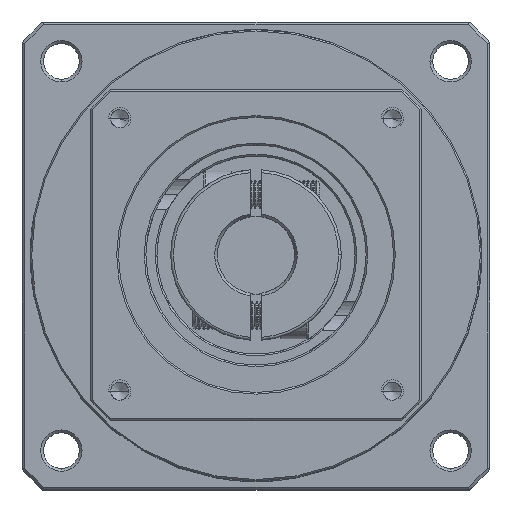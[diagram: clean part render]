
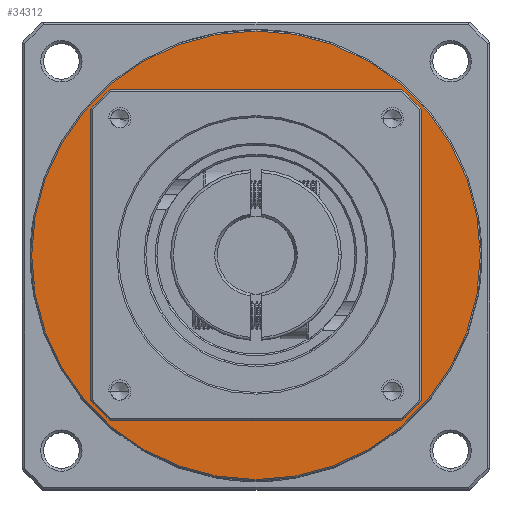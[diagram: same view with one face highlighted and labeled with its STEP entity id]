
A CAD part, top view. The second image highlights one B-rep face of the part: STEP entity #34312.
In plain terms, the highlighted planar face has unit normal (0, 0, 1).
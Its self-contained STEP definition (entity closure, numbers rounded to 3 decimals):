
#706 = EDGE_CURVE ( 'NONE', #90603, #78746, #49749, .T. ) ;
#1589 = FACE_BOUND ( 'NONE', #71587, .T. ) ;
#1782 = EDGE_CURVE ( 'NONE', #35960, #50539, #41264, .T. ) ;
#4365 = ORIENTED_EDGE ( 'NONE', *, *, #706, .T. ) ;
#6225 = CARTESIAN_POINT ( 'NONE',  ( -21.377, 18.452, -15.806 ) ) ;
#6499 = DIRECTION ( 'NONE',  ( -1., 0., 0. ) ) ;
#6608 = DIRECTION ( 'NONE',  ( 0., 0., -1. ) ) ;
#6634 = CARTESIAN_POINT ( 'NONE',  ( -62.127, 18.452, -15.806 ) ) ;
#6639 = CARTESIAN_POINT ( 'NONE',  ( -62.127, 18.452, -15.806 ) ) ;
#9171 = ORIENTED_EDGE ( 'NONE', *, *, #14248, .F. ) ;
#11929 = CIRCLE ( 'NONE', #32066, 40.75 ) ;
#14248 = EDGE_CURVE ( 'NONE', #50539, #35960, #11929, .T. ) ;
#15518 = DIRECTION ( 'NONE',  ( 1., 0., 0. ) ) ;
#18765 = DIRECTION ( 'NONE',  ( 0., 0., -1. ) ) ;
#19533 = AXIS2_PLACEMENT_3D ( 'NONE', #71592, #18765, #80556 ) ;
#20579 = EDGE_LOOP ( 'NONE', ( #99719, #9171 ) ) ;
#22600 = AXIS2_PLACEMENT_3D ( 'NONE', #6634, #68273, #15518 ) ;
#27116 = DIRECTION ( 'NONE',  ( 0., 0., -1. ) ) ;
#32066 = AXIS2_PLACEMENT_3D ( 'NONE', #80065, #27116, #88884 ) ;
#34312 = ADVANCED_FACE ( 'NONE', ( #69236, #1589 ), #67910, .T. ) ;
#35960 = VERTEX_POINT ( 'NONE', #105515 ) ;
#41264 = CIRCLE ( 'NONE', #96773, 40.75 ) ;
#43983 = ORIENTED_EDGE ( 'NONE', *, *, #62585, .T. ) ;
#49749 = CIRCLE ( 'NONE', #88489, 30. ) ;
#50539 = VERTEX_POINT ( 'NONE', #6225 ) ;
#62585 = EDGE_CURVE ( 'NONE', #78746, #90603, #66286, .T. ) ;
#66286 = CIRCLE ( 'NONE', #19533, 30. ) ;
#67910 = PLANE ( 'NONE',  #22600 ) ;
#68273 = DIRECTION ( 'NONE',  ( 0., 0., 1. ) ) ;
#69236 = FACE_OUTER_BOUND ( 'NONE', #20579, .T. ) ;
#70061 = DIRECTION ( 'NONE',  ( -1., 0., 0. ) ) ;
#70209 = DIRECTION ( 'NONE',  ( 0., 0., -1. ) ) ;
#70297 = CARTESIAN_POINT ( 'NONE',  ( -62.127, 18.452, -15.806 ) ) ;
#71587 = EDGE_LOOP ( 'NONE', ( #4365, #43983 ) ) ;
#71592 = CARTESIAN_POINT ( 'NONE',  ( -62.127, 18.452, -15.806 ) ) ;
#78746 = VERTEX_POINT ( 'NONE', #79148 ) ;
#79148 = CARTESIAN_POINT ( 'NONE',  ( -32.127, 18.452, -15.806 ) ) ;
#80065 = CARTESIAN_POINT ( 'NONE',  ( -62.127, 18.452, -15.806 ) ) ;
#80556 = DIRECTION ( 'NONE',  ( -1., 0., 0. ) ) ;
#88489 = AXIS2_PLACEMENT_3D ( 'NONE', #70297, #70209, #70061 ) ;
#88884 = DIRECTION ( 'NONE',  ( -1., 0., 0. ) ) ;
#90603 = VERTEX_POINT ( 'NONE', #93510 ) ;
#93510 = CARTESIAN_POINT ( 'NONE',  ( -92.127, 18.452, -15.806 ) ) ;
#96773 = AXIS2_PLACEMENT_3D ( 'NONE', #6639, #6608, #6499 ) ;
#99719 = ORIENTED_EDGE ( 'NONE', *, *, #1782, .F. ) ;
#105515 = CARTESIAN_POINT ( 'NONE',  ( -102.877, 18.452, -15.806 ) ) ;
